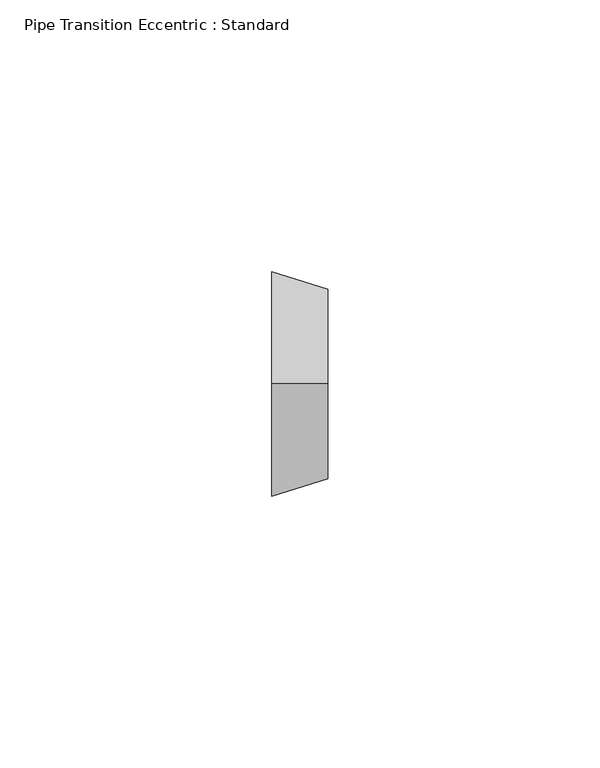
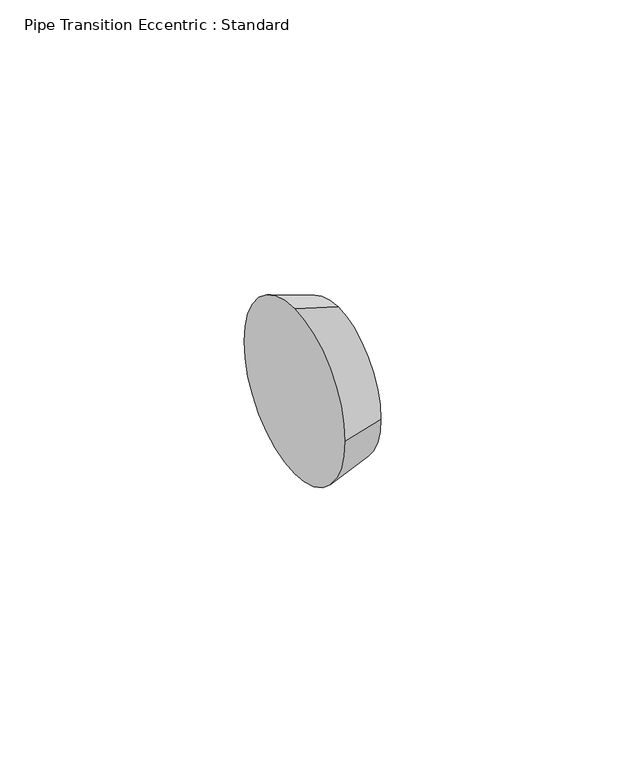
"""IFC4 building model written with IfcOpenShell, lengths in millimetres: pipe fitting geometry, Pipe Transition Eccentric : Standard."""

import ifcopenshell
import ifcopenshell.guid

model = None  # the IFC model being written
_history = None  # IfcOwnerHistory: only IFC2X3 demands one
_inside = {}  # id of a spatial element -> (the spatial element, [elements in it])
_under = {}  # id of a project, library or spatial element -> (it, [spatial elements below it])
_declared = {}  # id of a project -> (the project, [libraries it declares])
_typed = {}  # id of a type object -> (the type object, [elements of that type])
_made_of = {}  # id of a material, layer set ... -> (it, [elements and type objects made of it])


def new_model(schema):
    """Start an empty IFC model of exactly this schema.

    Asked for "IFC4X3", IfcOpenShell would pick the latest addendum, in which some entities
    have other attributes; the version numbers below select the first issue.
    IFC2X3 requires an IfcOwnerHistory on every rooted entity: one is made here for all.
    """
    global model, _history
    if schema == "IFC4X3":
        model = ifcopenshell.file(schema_version=(4, 3, 0, 0))
    else:
        model = ifcopenshell.file(schema=schema)
    _inside.clear()
    _under.clear()
    _declared.clear()
    _typed.clear()
    _made_of.clear()
    _history = None
    if model.schema == "IFC2X3":
        org = make("IfcOrganization", Name="unknown")
        user = make(
            "IfcPersonAndOrganization",
            ThePerson=make("IfcPerson", FamilyName="unknown"),
            TheOrganization=org,
        )
        app = make(
            "IfcApplication",
            ApplicationDeveloper=org,
            Version="unknown",
            ApplicationFullName="unknown",
            ApplicationIdentifier="unknown",
        )
        _history = make(
            "IfcOwnerHistory",
            OwningUser=user,
            OwningApplication=app,
            ChangeAction="ADDED",
            CreationDate=0,
        )
    return model


def make(cls, **values):
    """One entity of the class cls with the attributes given. An attribute that is None is left unset."""
    return model.create_entity(
        cls, **{name: value for name, value in values.items() if value is not None}
    )


def rooted(cls, **values):
    """An entity with a GlobalId (a new one), such as an element, a storey or a relation."""
    return make(cls, GlobalId=ifcopenshell.guid.new(), OwnerHistory=_history, **values)


def si_unit(unit_type, name, prefix=None):
    """IfcSIUnit, for example si_unit("LENGTHUNIT", "METRE", prefix="MILLI")."""
    return make("IfcSIUnit", UnitType=unit_type, Prefix=prefix, Name=name)


def assignment(units):
    """IfcUnitAssignment: the units of a project."""
    return None if units is None else make("IfcUnitAssignment", Units=units)


def point(xyz):
    """IfcCartesianPoint."""
    return None if xyz is None else make("IfcCartesianPoint", Coordinates=xyz)


def direction(xyz):
    """IfcDirection."""
    return None if xyz is None else make("IfcDirection", DirectionRatios=xyz)


def frame(location, z_axis=None, x_axis=None):
    """IfcAxis2Placement3D, a coordinate frame: its origin and axes. An axis left out is left unset."""
    return make(
        "IfcAxis2Placement3D",
        Location=point(location),
        Axis=direction(z_axis),
        RefDirection=direction(x_axis),
    )


def origin():
    """The frame at (0, 0, 0) with its axes left unset."""
    return frame((0.0, 0.0, 0.0))


def place(relative_to, where):
    """IfcLocalPlacement: puts the frame where relative to a parent placement (None: the world)."""
    return make(
        "IfcLocalPlacement", PlacementRelTo=relative_to, RelativePlacement=where
    )


def context(
    kind, dimensions, precision=None, world=None, true_north=None, identifier=None
):
    """IfcGeometricRepresentationContext, for example the 3D "Model" context."""
    return make(
        "IfcGeometricRepresentationContext",
        ContextIdentifier=identifier,
        ContextType=kind,
        CoordinateSpaceDimension=dimensions,
        Precision=precision,
        WorldCoordinateSystem=world,
        TrueNorth=true_north,
    )


def project(units=None, contexts=None):
    """IfcProject with its units and contexts."""
    return rooted(
        "IfcProject",
        Name="project",
        RepresentationContexts=contexts,
        UnitsInContext=assignment(units),
    )


def spatial(cls, under=None, at=None, **own):
    """A site, building, storey or space (cls), placed at a placement, below another one or the project."""
    s = rooted(cls, ObjectPlacement=at, **own)
    if under is not None:
        _under.setdefault(under.id(), (under, []))[1].append(s)
    return s


def polyline(points):
    """IfcPolyline through the points."""
    return make("IfcPolyline", Points=[point(p) for p in points])


def circle_curve(where, radius):
    """IfcCircle in the frame where."""
    return make("IfcCircle", Position=where, Radius=radius)


def shape(context_of_items, identifier, shape_type, items):
    """IfcShapeRepresentation: the items that make up one representation, for example the "Body"."""
    return make(
        "IfcShapeRepresentation",
        ContextOfItems=context_of_items,
        RepresentationIdentifier=identifier,
        RepresentationType=shape_type,
        Items=items,
    )


def source(mapping_origin, context_of_items, identifier, shape_type, items):
    """IfcRepresentationMap: a shape defined once, which mapped items show again and again."""
    return make(
        "IfcRepresentationMap",
        MappingOrigin=mapping_origin,
        MappedRepresentation=shape(context_of_items, identifier, shape_type, items),
    )


def transform(
    local_origin,
    x_axis=None,
    y_axis=None,
    z_axis=None,
    scale=None,
    scale2=None,
    scale3=None,
    uniform=True,
):
    """IfcCartesianTransformationOperator3D, or its non-uniform kind. x_axis, y_axis, z_axis: its Axis1, 2, 3."""
    if uniform:
        return make(
            "IfcCartesianTransformationOperator3D",
            Axis1=direction(x_axis),
            Axis2=direction(y_axis),
            LocalOrigin=point(local_origin),
            Scale=scale,
            Axis3=direction(z_axis),
        )
    return make(
        "IfcCartesianTransformationOperator3DnonUniform",
        Axis1=direction(x_axis),
        Axis2=direction(y_axis),
        LocalOrigin=point(local_origin),
        Scale=scale,
        Axis3=direction(z_axis),
        Scale2=scale2,
        Scale3=scale3,
    )


def mapped(mapping_source, mapping_target):
    """IfcMappedItem: shows the shape of a source again, moved by a transform."""
    return make(
        "IfcMappedItem", MappingSource=mapping_source, MappingTarget=mapping_target
    )


def made_of(thing, what):
    """Note that an element or type object is made of a material, layer set ...; save() writes the relation."""
    if what is not None:
        _made_of.setdefault(what.id(), (what, []))[1].append(thing)
    return thing


def element(
    cls,
    number,
    at=None,
    inside=None,
    cuts=None,
    type_object=None,
    material=None,
    context=None,
    identifier="Body",
    shape_type=None,
    held_by="IfcProductDefinitionShape",
    body=None,
    shapes=None,
    **own,
):
    """One element of the class cls, such as IfcWall. Its Tag is "e" and its number.

    at: its placement. inside: the storey or other place that contains it. cuts: it is an
    opening in that element (IfcRelVoidsElement). A single representation is given by context,
    identifier, shape_type and body (its items); several are given by shapes. held_by: the class
    of the entity that holds the representations. save() writes the other relations.
    """
    e = rooted(cls, Tag="e%d" % number, ObjectPlacement=at, **own)
    if body is not None:
        shapes = [shape(context, identifier, shape_type, body)]
    if shapes is not None:
        e.Representation = make(held_by, Representations=shapes)
    if inside is not None:
        _inside.setdefault(inside.id(), (inside, []))[1].append(e)
    if cuts is not None:
        rooted(
            "IfcRelVoidsElement", RelatingBuildingElement=cuts, RelatedOpeningElement=e
        )
    if type_object is not None:
        _typed.setdefault(type_object.id(), (type_object, []))[1].append(e)
    return made_of(e, material)


def aggregate(whole, parts):
    """IfcRelAggregates: a whole, such as a stair, and the parts it consists of."""
    return rooted("IfcRelAggregates", RelatingObject=whole, RelatedObjects=parts)


def save(model, path):
    """Write the relations noted so far, then the file.

    IfcRelAggregates (storeys below a building ...), IfcRelContainedInSpatialStructure (elements
    in a storey), IfcRelDefinesByType, IfcRelAssociatesMaterial and IfcRelDeclares: one each for
    every whole, place, type object, material and project.
    """
    for whole, parts in _under.values():
        aggregate(whole, parts)
    for where, things in _inside.values():
        rooted(
            "IfcRelContainedInSpatialStructure",
            RelatedElements=things,
            RelatingStructure=where,
        )
    for kind, things in _typed.values():
        rooted("IfcRelDefinesByType", RelatedObjects=things, RelatingType=kind)
    for what, things in _made_of.values():
        rooted("IfcRelAssociatesMaterial", RelatedObjects=things, RelatingMaterial=what)
    for by, libraries in _declared.values():
        rooted("IfcRelDeclares", RelatingContext=by, RelatedDefinitions=libraries)
    model.write(path)


def plane_surface(at):
    """IfcPlane: the flat surface through the origin of the frame at, square to its z axis."""
    return make("IfcPlane", Position=at)


def revolved_surface(curve, axis_point, axis_direction):
    """IfcSurfaceOfRevolution: the curve turned about the line through axis_point along axis_direction."""
    return make(
        "IfcSurfaceOfRevolution",
        SweptCurve=make("IfcArbitraryOpenProfileDef", ProfileType="CURVE", Curve=curve),
        AxisPosition=make("IfcAxis1Placement", Location=point(axis_point), Axis=direction(axis_direction)),
    )


def advanced_brep(points, edges, surfaces, faces):
    """IfcAdvancedBrep: a solid bounded by faces that lie on surfaces and meet in shared edges.

    An edge is (start, end): straight between two places in points (the first is 0);
    or (start, end, curve); or (start, end, curve, False) where it runs against its curve.
    A face is (place in surfaces, loops), or (place, loops, False) where it looks against
    its surface's normal. A loop lists edges by number (the first is 1), with a minus sign
    where the edge is run from its end to its start. The first loop is the outer one.
    """
    corners = [point(p) for p in points]
    vertices = [make("IfcVertexPoint", VertexGeometry=c) for c in corners]
    made = []
    for start, end, *more in edges:
        made.append(
            make(
                "IfcEdgeCurve",
                EdgeStart=vertices[start],
                EdgeEnd=vertices[end],
                EdgeGeometry=more[0] if more else make("IfcPolyline", Points=[corners[start], corners[end]]),
                SameSense=more[1] if len(more) > 1 else True,
            )
        )
    hull = []
    for where, loops, *sense in faces:
        bounds = []
        for j, loop in enumerate(loops):
            ring = [make("IfcOrientedEdge", EdgeElement=made[abs(k) - 1], Orientation=k > 0) for k in loop]
            bounds.append(
                make(
                    "IfcFaceOuterBound" if j == 0 else "IfcFaceBound",
                    Bound=make("IfcEdgeLoop", EdgeList=ring),
                    Orientation=True,
                )
            )
        hull.append(make("IfcAdvancedFace", Bounds=bounds, FaceSurface=surfaces[where], SameSense=sense[0] if sense else True))
    return make("IfcAdvancedBrep", Outer=make("IfcClosedShell", CfsFaces=hull))


def pipe_transition_eccentric_standard_48f40522(model_context):
    return source(origin(), model_context, "Body", "AdvancedBrep", [
        advanced_brep(
        [(10.31875, 0.0, 17.4625), (10.31875, -17.4625, 0.0), (10.31875, 0.0, -17.4625), (10.31875, 17.4625, 0.0), (0.0, 0.0, 20.6375), (0.0, 20.6375, 0.0), (0.0, 0.0, -20.6375), (0.0, -20.6375, 0.0)],
        [
            (0, 1, circle_curve(frame((10.31875, 0.0, 0.0), z_axis=(1.0, 0.0, 0.0), x_axis=(0.0, 0.0, 1.0)), 17.4625)),
            (1, 2, circle_curve(frame((10.31875, 0.0, 0.0), z_axis=(1.0, 0.0, 0.0), x_axis=(0.0, -1.0, 0.0)), 17.4625)),
            (2, 3, circle_curve(frame((10.31875, 0.0, 0.0), z_axis=(1.0, 0.0, 0.0), x_axis=(0.0, 0.0, -1.0)), 17.4625)),
            (3, 0, circle_curve(frame((10.31875, 0.0, 0.0), z_axis=(1.0, 0.0, 0.0), x_axis=(0.0, 1.0, 0.0)), 17.4625)),
            (4, 5, circle_curve(frame((0.0, 0.0, 0.0), z_axis=(-1.0, 0.0, 0.0), x_axis=(0.0, 1.0, 0.0)), 20.6375)),
            (5, 6, circle_curve(frame((0.0, 0.0, 0.0), z_axis=(-1.0, 0.0, 0.0), x_axis=(0.0, 0.0, -1.0)), 20.6375)),
            (6, 7, circle_curve(frame((0.0, 0.0, 0.0), z_axis=(-1.0, 0.0, 0.0), x_axis=(0.0, -1.0, 0.0)), 20.6375)),
            (7, 4, circle_curve(frame((0.0, 0.0, 0.0), z_axis=(-1.0, 0.0, 0.0), x_axis=(0.0, 0.0, 1.0)), 20.6375)),
            (7, 1),
            (0, 4),
            (6, 2),
            (5, 3),
        ],
        [
            plane_surface(frame((10.31875, 0.0, 0.0), z_axis=(1.0, 0.0, 0.0), x_axis=(0.0, -1.0, 0.0))),
            plane_surface(frame((0.0, 0.0, 0.0), z_axis=(-1.0, 0.0, 0.0), x_axis=(0.0, -1.0, 0.0))),
            revolved_surface(polyline([(10.318750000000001, 0.0, 17.4625), (0.0, 0.0, 20.6375)]), (67.071875, 0.0, 0.0), (-1.0, 0.0, 0.0)),
            revolved_surface(polyline([(10.318750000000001, -17.4625, 0.0), (0.0, -20.6375, 0.0)]), (67.071875, 0.0, 0.0), (-1.0, 0.0, 0.0)),
            revolved_surface(polyline([(10.318750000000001, 0.0, -17.4625), (0.0, 0.0, -20.6375)]), (67.071875, 0.0, 0.0), (-1.0, 0.0, 0.0)),
            revolved_surface(polyline([(10.318750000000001, 17.4625, 0.0), (0.0, 20.6375, 0.0)]), (67.071875, 0.0, 0.0), (-1.0, 0.0, 0.0)),
        ],
        [
            (0, [[1, 2, 3, 4]]),
            (1, [[5, 6, 7, 8]]),
            (2, [[-8, 9, -1, 10]]),
            (3, [[-7, 11, -2, -9]]),
            (4, [[-6, 12, -3, -11]]),
            (5, [[-5, -10, -4, -12]]),
        ],
    ),
        advanced_brep(
        [(10.31875, 0.0, 17.4625), (10.31875, -17.4625, 0.0), (10.31875, 0.0, -17.4625), (10.31875, 17.4625, 0.0), (0.0, 0.0, 20.6375), (0.0, 20.6375, 0.0), (0.0, 0.0, -20.6375), (0.0, -20.6375, 0.0)],
        [
            (0, 1, circle_curve(frame((10.31875, 0.0, 0.0), z_axis=(1.0, 0.0, 0.0), x_axis=(0.0, 0.0, 1.0)), 17.4625)),
            (1, 2, circle_curve(frame((10.31875, 0.0, 0.0), z_axis=(1.0, 0.0, 0.0), x_axis=(0.0, -1.0, 0.0)), 17.4625)),
            (2, 3, circle_curve(frame((10.31875, 0.0, 0.0), z_axis=(1.0, 0.0, -1.2984464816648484e-12), x_axis=(-1.2982797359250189e-12, 0.0, -1.0)), 17.4625)),
            (3, 0, circle_curve(frame((10.31875, 0.0, 0.0), z_axis=(1.0, 0.0, 0.0), x_axis=(0.0, 1.0, 0.0)), 17.4625)),
            (4, 5, circle_curve(frame((0.0, 0.0, 0.0), z_axis=(-1.0, 0.0, 0.0), x_axis=(0.0, 1.0, 0.0)), 20.6375)),
            (5, 6, circle_curve(frame((0.0, 0.0, 0.0), z_axis=(-1.0, 0.0, 1.2984464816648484e-12), x_axis=(-1.2982797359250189e-12, 0.0, -1.0)), 20.6375)),
            (6, 7, circle_curve(frame((0.0, 0.0, 0.0), z_axis=(-1.0, 0.0, 0.0), x_axis=(0.0, -1.0, 0.0)), 20.6375)),
            (7, 4, circle_curve(frame((0.0, 0.0, 0.0), z_axis=(-1.0, 0.0, 0.0), x_axis=(0.0, 0.0, 1.0)), 20.6375)),
            (7, 1),
            (0, 4),
            (6, 2),
            (5, 3),
        ],
        [
            plane_surface(frame((10.31875, 0.0, 0.0), z_axis=(1.0, 0.0, 0.0), x_axis=(0.0, -1.0, 0.0))),
            plane_surface(frame((0.0, 0.0, 0.0), z_axis=(-1.0, 0.0, 0.0), x_axis=(0.0, -1.0, 0.0))),
            revolved_surface(polyline([(10.318750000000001, 0.0, 17.4625), (0.0, 0.0, 20.6375)]), (67.071875, 0.0, 0.0), (-1.0, 0.0, 0.0)),
            revolved_surface(polyline([(10.318750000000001, -17.4625, 0.0), (0.0, -20.6375, 0.0)]), (67.071875, 0.0, 0.0), (-1.0, 0.0, 0.0)),
            revolved_surface(polyline([(10.318749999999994, 0.0, -17.462500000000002), (-2.680167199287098e-11, 0.0, -20.63750000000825)]), (67.071875, 0.0, 0.0), (-1.0, 0.0, 1.2984464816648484e-12)),
            revolved_surface(polyline([(10.318750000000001, 17.4625, 0.0), (0.0, 20.6375, 0.0)]), (67.071875, 0.0, 0.0), (-1.0, 0.0, 0.0)),
        ],
        [
            (0, [[1, 2, 3, 4]]),
            (1, [[5, 6, 7, 8]]),
            (2, [[-8, 9, -1, 10]]),
            (3, [[-7, 11, -2, -9]]),
            (4, [[-6, 12, -3, -11]]),
            (5, [[-5, -10, -4, -12]]),
        ],
    ),
    ])


if __name__ == "__main__":
    model = new_model("IFC4")
    model_context = context("Model", 3, world=origin())
    ifc_project = project(units=[si_unit("LENGTHUNIT", "METRE", prefix="MILLI")], contexts=[model_context])
    site = spatial("IfcSite", under=ifc_project)
    building = spatial("IfcBuilding", under=site)
    placement = place(None, origin())
    pipe_transition_eccentric_standard_shape = pipe_transition_eccentric_standard_48f40522(model_context)
    element("IfcPipeFitting", 1, ObjectType="Pipe Transition Eccentric : Standard", at=placement, inside=building, context=model_context, shape_type="MappedRepresentation", body=[
        mapped(pipe_transition_eccentric_standard_shape, transform((0.0, 0.0, 0.0), x_axis=(1.0, 0.0, 0.0), y_axis=(0.0, 1.0, 0.0), z_axis=(0.0, 0.0, 1.0))),
    ])
    save(model, "model.ifc")
